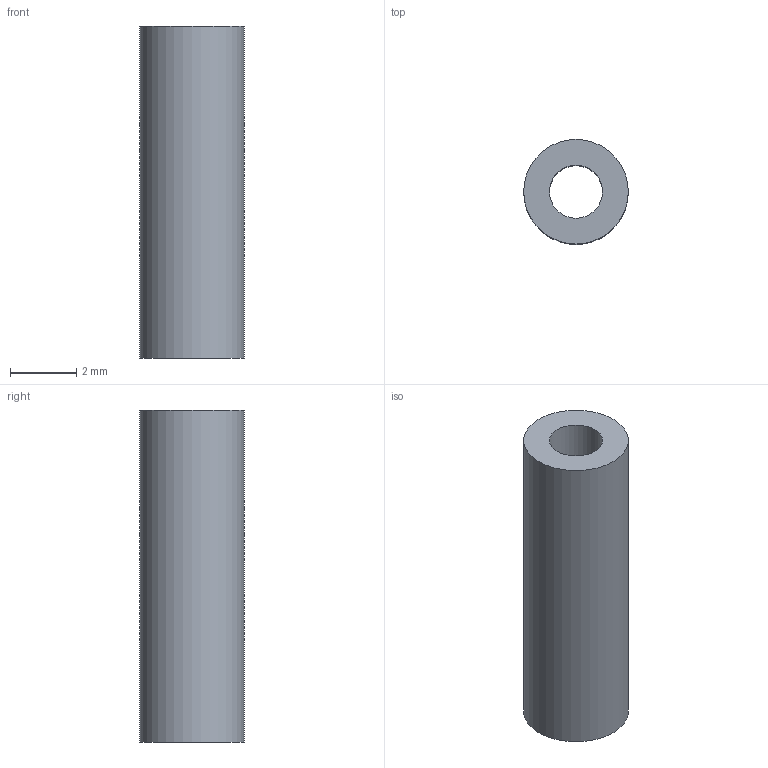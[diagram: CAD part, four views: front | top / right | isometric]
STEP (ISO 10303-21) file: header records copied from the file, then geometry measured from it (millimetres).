
FILE_DESCRIPTION(('Open CASCADE Model'),'2;1');
FILE_NAME('Open CASCADE Shape Model','2026-11-11T16:54:55',('Author'),( 'Open CASCADE'),'Open CASCADE STEP processor 7.9','Open CASCADE 7.9' ,'Unknown');
FILE_SCHEMA(('AUTOMOTIVE_DESIGN { 1 0 10303 214 1 1 1 1 }'));
Length unit declared in the file: millimetre
Products named in the file (1): Open CASCADE STEP translator 7.9 10
Bounding box: 3.15 x 3.15 x 10 mm (x, y, z)
Volume: 56.2 mm3; surface area: 162.3 mm2
Topology: 1 solids, 1 shells, 6 faces, 9 edges, 6 vertices
Faces by surface type: cylinder 3, plane 3
Full cylindrical faces by diameter (mm): 1.6 x1, 2.5 x1, 3.15 x1
Entity records: 276 total; most frequent: CARTESIAN_POINT 52, DIRECTION 45, ORIENTED_EDGE 18, PCURVE 18, DEFINITIONAL_REPRESENTATION 18, LINE 15, VECTOR 15, AXIS2_PLACEMENT_3D 13
